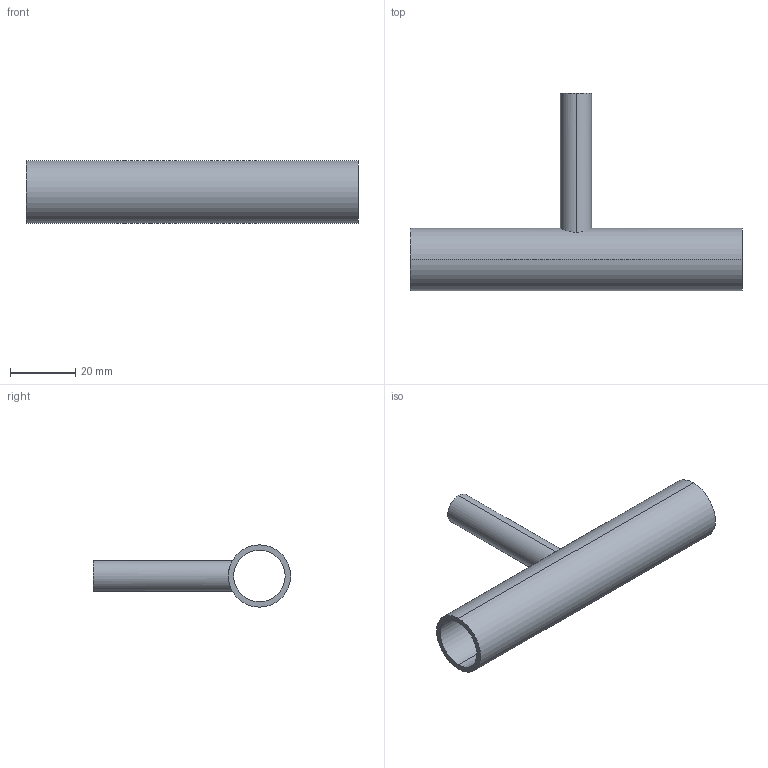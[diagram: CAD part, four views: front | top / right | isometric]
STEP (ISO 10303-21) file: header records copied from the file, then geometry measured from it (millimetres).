
FILE_DESCRIPTION (( 'STEP AP214' ), '1' );
FILE_NAME ('TE7RWWW6L.75x.375-...STEP', '2016-05-24T04:03:36', ( 'eran' ), ( '' ), 'SwSTEP 2.0', 'SolidWorks 2016', '' );
FILE_SCHEMA (( 'AUTOMOTIVE_DESIGN' ));
Length unit declared in the file: millimetre
Products named in the file (1): TE7RWWW6L.75x.375-..
Bounding box: 101.6 x 60.33 x 19.05 mm (x, y, z)
Volume: 10093.5 mm3; surface area: 13501.5 mm2
Topology: 1 solids, 1 shells, 11 faces, 24 edges, 16 vertices
Faces by surface type: cylinder 8, plane 3
Entity records: 480 total; most frequent: CARTESIAN_POINT 188, DIRECTION 56, ORIENTED_EDGE 48, AXIS2_PLACEMENT_3D 24, EDGE_CURVE 24, EDGE_LOOP 16, VERTEX_POINT 16, CIRCLE 12
